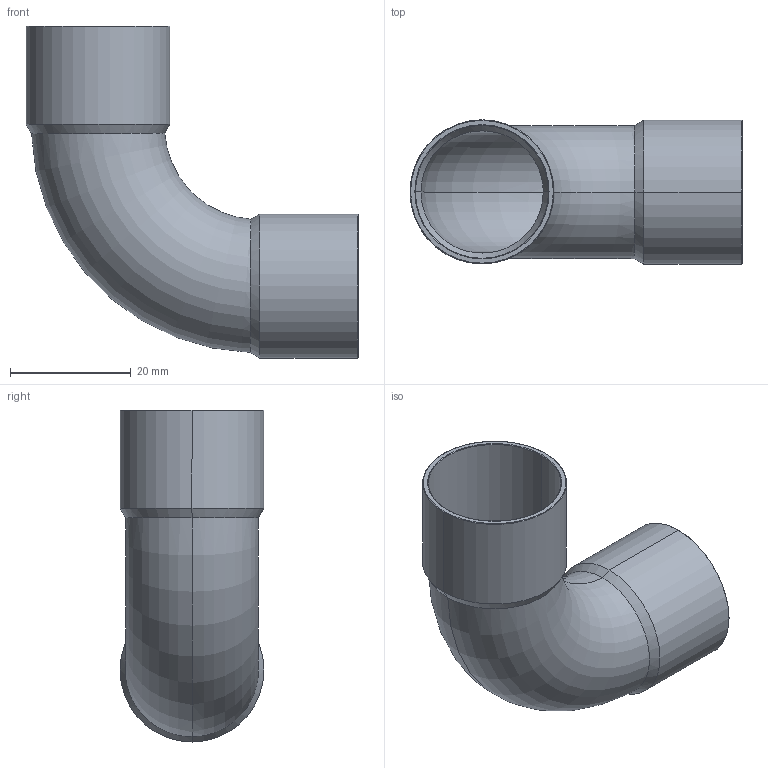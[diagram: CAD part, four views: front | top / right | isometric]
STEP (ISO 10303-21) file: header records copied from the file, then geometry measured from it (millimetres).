
FILE_DESCRIPTION((''),'2;1');
FILE_NAME('D:\5002\15002a22.stp','2005-10-04T11:35:37',('Kris'),(''),'Autodesk Inventor 8','Autodesk Inventor 8','');
FILE_SCHEMA(('AUTOMOTIVE_DESIGN { 1 0 10303 214 1 1 1 1 }'));
Length unit declared in the file: millimetre
Products named in the file (1): 15002a22
Bounding box: 54.9 x 23.8 x 54.9 mm (x, y, z)
Volume: 4655 mm3; surface area: 10460.1 mm2
Topology: 1 solids, 1 shells, 30 faces, 60 edges, 32 vertices
Faces by surface type: cone 12, bspline 9, torus 4, cylinder 4, plane 1
Entity records: 1027 total; most frequent: CARTESIAN_POINT 414, DIRECTION 124, ORIENTED_EDGE 120, EDGE_CURVE 60, AXIS2_PLACEMENT_3D 50, VERTEX_POINT 32, EDGE_LOOP 32, FACE_OUTER_BOUND 30
